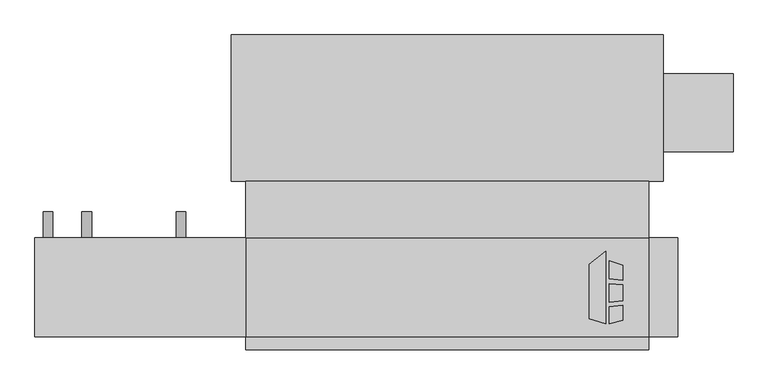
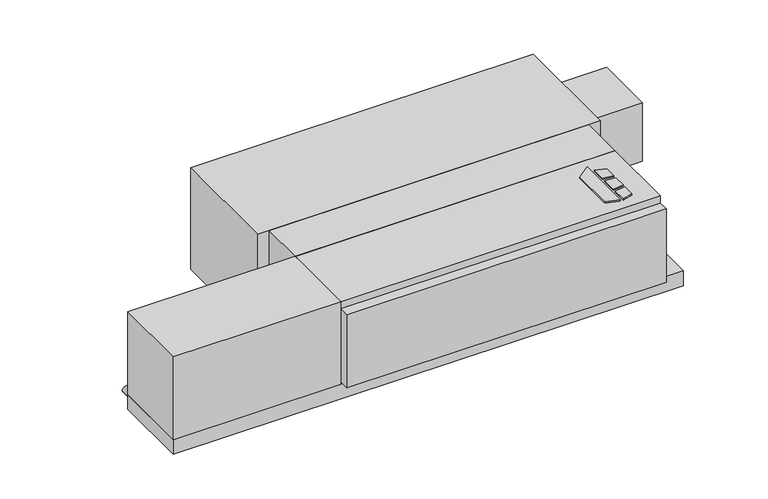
"""IFC4 building model written with IfcOpenShell, lengths in millimetres: proxy geometry, Concealed_Horizontal_Fan_Coil_Unit_With_Plenum_-_CPF_-_IEC_-_2-Pipe_LH : Size 06 - 115v/60Hz/1Ph - 4/1 Coil."""

from ifc_helpers import new_model, si_unit, point, frame, frame_2d, origin, origin_with_axes, place, context, project, spatial, polyline, circle_curve, trimmed, segment, composite_curve, outline, extrude, source, transform, mapped, element, save


def mechanical_equipment_4dd393c2(model_context):
    return source(origin(), model_context, "Body", "SweptSolid", [
        extrude(outline(polyline([(429.9019761, -193.0453476), (462.4602728, -167.6080184), (462.4602728, -309.5625), (429.9019761, -299.3429201), (429.9019761, -193.0453476)])), origin_with_axes(), (0.0, 0.0, 1.0), 3.175),
        extrude(outline(polyline([(469.2186058, -220.917352), (469.2186058, -186.4374379), (495.3, -194.6240115), (495.3, -224.1197446), (469.2186058, -220.917352)])), origin_with_axes(), (0.0, 0.0, 1.0), 3.175),
        extrude(outline(polyline([(495.3, -302.5740115), (469.2186058, -309.5625), (469.2186058, -276.3411996), (495.3, -272.7993564), (495.3, -302.5740115)])), origin_with_axes(), (0.0, 0.0, 1.0), 3.175),
        extrude(outline(polyline([(495.3, -233.2013277), (495.3, -264.451483), (469.2186058, -267.192748), (469.2186058, -231.3350378), (495.3, -233.2013277)])), origin_with_axes(), (0.0, 0.0, 1.0), 3.175),
        extrude(outline(polyline([(-241.3, -30.1625), (546.1, -30.1625), (546.1, -141.2875), (-241.3, -141.2875), (-241.3, -30.1625)])), frame((0.0, 0.0, -215.9), z_axis=(0.0, 0.0, 1.0), x_axis=(1.0, 0.0, 0.0)), (0.0, 0.0, 1.0), 215.9),
        extrude(outline(polyline([(-654.05, -334.9625), (-654.05, -141.2875), (-241.3, -141.2875), (-241.3, -334.9625), (-654.05, -334.9625)])), frame((0.0, 0.0, -215.9), z_axis=(0.0, 0.0, 1.0), x_axis=(1.0, 0.0, 0.0)), (0.0, 0.0, 1.0), 215.9),
        extrude(outline(polyline([(603.25, -141.2875), (603.25, -334.9625), (-654.05, -334.9625), (-654.05, -141.2875), (603.25, -141.2875)])), frame((0.0, 0.0, -254.0), z_axis=(0.0, 0.0, 1.0), x_axis=(1.0, 0.0, 0.0)), (0.0, 0.0, 1.0), 38.1),
        extrude(outline(composite_curve([segment(trimmed(circle_curve(frame_2d((-158.75, -552.45)), 9.525), [point((-158.75, -542.925))], [point((-158.75, -561.975))], False, "CARTESIAN"), True, "CONTINUOUS"), segment(trimmed(circle_curve(frame_2d((-158.75, -552.45)), 9.525), [point((-158.75, -561.975))], [point((-158.75, -542.925))], False, "CARTESIAN"), True, "CONTINUOUS")], self_intersect=False)), frame((0.0, -141.2875, 0.0), z_axis=(0.0, 1.0, 0.0), x_axis=(0.0, 0.0, 1.0)), (0.0, 0.0, 1.0), 50.8),
        extrude(outline(composite_curve([segment(trimmed(circle_curve(frame_2d((-158.75, -368.3)), 9.525), [point((-158.75, -358.775))], [point((-158.75, -377.825))], False, "CARTESIAN"), True, "CONTINUOUS"), segment(trimmed(circle_curve(frame_2d((-158.75, -368.3)), 9.525), [point((-158.75, -377.825))], [point((-158.75, -358.775))], False, "CARTESIAN"), True, "CONTINUOUS")], self_intersect=False)), frame((0.0, -141.2875, 0.0), z_axis=(0.0, 1.0, 0.0), x_axis=(0.0, 0.0, 1.0)), (0.0, 0.0, 1.0), 50.8),
        extrude(outline(composite_curve([segment(trimmed(circle_curve(frame_2d((-241.3, -628.65)), 9.525), [point((-241.3, -638.175))], [point((-241.3, -619.125))], False, "CARTESIAN"), True, "CONTINUOUS"), segment(trimmed(circle_curve(frame_2d((-241.3, -628.65)), 9.525), [point((-241.3, -619.125))], [point((-241.3, -638.175))], False, "CARTESIAN"), True, "CONTINUOUS")], self_intersect=False)), frame((0.0, -141.2875, 0.0), z_axis=(0.0, 1.0, 0.0), x_axis=(0.0, 0.0, 1.0)), (0.0, 0.0, 1.0), 50.8),
        extrude(outline(polyline([(546.1, -334.9625), (546.1, -360.3625), (-241.3, -360.3625), (-241.3, -334.9625), (546.1, -334.9625)])), frame((0.0, 0.0, -209.55), z_axis=(0.0, 0.0, 1.0), x_axis=(1.0, 0.0, 0.0)), (0.0, 0.0, 1.0), 190.5),
        extrude(outline(polyline([(546.1, -334.9625), (-241.3, -334.9625), (-241.3, -141.2875), (546.1, -141.2875), (546.1, -334.9625)])), frame((0.0, 0.0, -215.9), z_axis=(0.0, 0.0, 1.0), x_axis=(1.0, 0.0, 0.0)), (0.0, 0.0, 1.0), 215.9),
        extrude(outline(polyline([(574.675, 26.9875), (574.675, 179.3875), (711.2, 179.3875), (711.2, 26.9875), (574.675, 26.9875)])), frame((0.0, 0.0, -187.325), z_axis=(0.0, 0.0, 1.0), x_axis=(1.0, 0.0, 0.0)), (0.0, 0.0, 1.0), 152.4),
        extrude(outline(polyline([(-269.875, 255.5875), (574.675, 255.5875), (574.675, -30.1625), (-269.875, -30.1625), (-269.875, 255.5875)])), frame((0.0, 0.0, -263.525), z_axis=(0.0, 0.0, 1.0), x_axis=(1.0, 0.0, 0.0)), (0.0, 0.0, 1.0), 263.525),
    ])


if __name__ == "__main__":
    model = new_model("IFC4")
    model_context = context("Model", 3, world=origin())
    ifc_project = project(units=[si_unit("LENGTHUNIT", "METRE", prefix="MILLI")], contexts=[model_context])
    site = spatial("IfcSite", under=ifc_project)
    building = spatial("IfcBuilding", under=site)
    placement = place(None, origin())
    mechanical_equipment_shape = mechanical_equipment_4dd393c2(model_context)
    element("IfcBuildingElementProxy", 1, Name="Concealed_Horizontal_Fan_Coil_Unit_With_Plenum_-_CPF_-_IEC_-_2-Pipe_LH : Size 06 - 115v/60Hz/1Ph - 4/1 Coil", ObjectType="Concealed_Horizontal_Fan_Coil_Unit_With_Plenum_-_CPF_-_IEC_-_2-Pipe_LH : Size 06 - 115v/60Hz/1Ph - 4/1 Coil", at=placement, inside=building, context=model_context, shape_type="MappedRepresentation", body=[
        mapped(mechanical_equipment_shape, transform((0.0, 0.0, 0.0), x_axis=(1.0, 0.0, 0.0), y_axis=(0.0, 1.0, 0.0), z_axis=(0.0, 0.0, 1.0))),
    ])
    save(model, "model.ifc")
